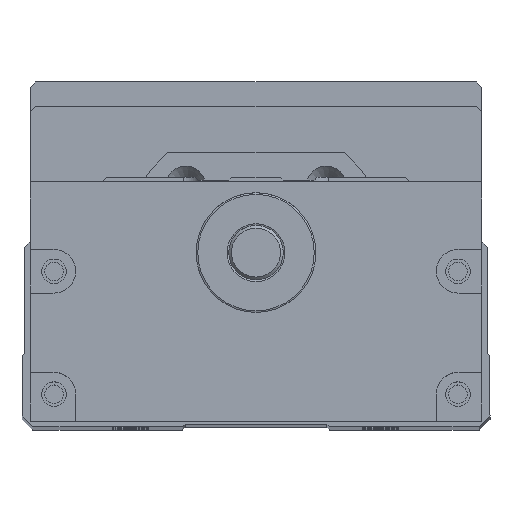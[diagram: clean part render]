
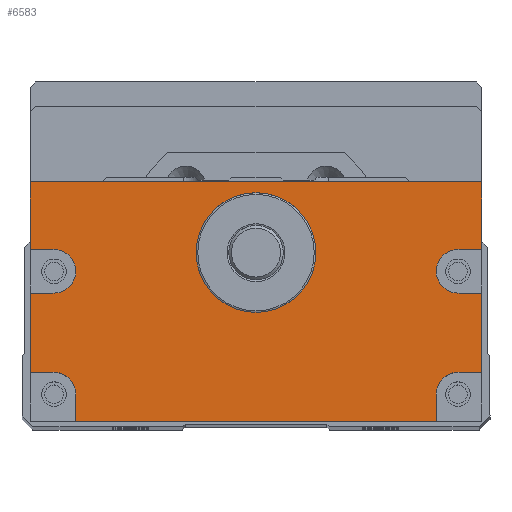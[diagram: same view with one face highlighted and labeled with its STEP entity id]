
A CAD part, top view. The second image highlights one B-rep face of the part: STEP entity #6583.
In plain terms, the highlighted planar face has unit normal (0, 0, 1).
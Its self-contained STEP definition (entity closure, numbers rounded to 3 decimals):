
#534=LINE('',#26856,#1193);
#536=LINE('',#26860,#1195);
#537=LINE('',#26863,#1196);
#538=LINE('',#26865,#1197);
#539=LINE('',#26869,#1198);
#540=LINE('',#26871,#1199);
#541=LINE('',#26872,#1200);
#542=LINE('',#26874,#1201);
#543=LINE('',#26878,#1202);
#544=LINE('',#26880,#1203);
#545=LINE('',#26882,#1204);
#546=LINE('',#26886,#1205);
#547=LINE('',#26888,#1206);
#548=LINE('',#26890,#1207);
#1193=VECTOR('',#15520,1.);
#1195=VECTOR('',#15524,1.);
#1196=VECTOR('',#15525,1.);
#1197=VECTOR('',#15526,1.);
#1198=VECTOR('',#15529,1.);
#1199=VECTOR('',#15530,1.);
#1200=VECTOR('',#15531,1.);
#1201=VECTOR('',#15532,1.);
#1202=VECTOR('',#15535,1.);
#1203=VECTOR('',#15536,1.);
#1204=VECTOR('',#15537,1.);
#1205=VECTOR('',#15540,1.);
#1206=VECTOR('',#15541,1.);
#1207=VECTOR('',#15542,1.);
#6583=ADVANCED_FACE('',(#7412,#7413),#7023,.T.);
#7023=PLANE('',#14071);
#7412=FACE_BOUND('',#7956,.T.);
#7413=FACE_BOUND('',#7957,.T.);
#7956=EDGE_LOOP('',(#9377,#9378,#9379,#9380,#9381,#9382,#9383,#9384,#9385,
#9386,#9387,#9388,#9389,#9390,#9391,#9392,#9393,#9394));
#7957=EDGE_LOOP('',(#9395));
#9377=ORIENTED_EDGE('',*,*,#12496,.F.);
#9378=ORIENTED_EDGE('',*,*,#12497,.T.);
#9379=ORIENTED_EDGE('',*,*,#12498,.F.);
#9380=ORIENTED_EDGE('',*,*,#12499,.F.);
#9381=ORIENTED_EDGE('',*,*,#12500,.F.);
#9382=ORIENTED_EDGE('',*,*,#12501,.T.);
#9383=ORIENTED_EDGE('',*,*,#12494,.T.);
#9384=ORIENTED_EDGE('',*,*,#12502,.T.);
#9385=ORIENTED_EDGE('',*,*,#12503,.F.);
#9386=ORIENTED_EDGE('',*,*,#12504,.F.);
#9387=ORIENTED_EDGE('',*,*,#12505,.F.);
#9388=ORIENTED_EDGE('',*,*,#12506,.T.);
#9389=ORIENTED_EDGE('',*,*,#12507,.F.);
#9390=ORIENTED_EDGE('',*,*,#12508,.F.);
#9391=ORIENTED_EDGE('',*,*,#12509,.F.);
#9392=ORIENTED_EDGE('',*,*,#12510,.T.);
#9393=ORIENTED_EDGE('',*,*,#12511,.F.);
#9394=ORIENTED_EDGE('',*,*,#12512,.F.);
#9395=ORIENTED_EDGE('',*,*,#12480,.T.);
#11409=VERTEX_POINT('',#26827);
#11422=VERTEX_POINT('',#26855);
#11423=VERTEX_POINT('',#26857);
#11424=VERTEX_POINT('',#26861);
#11425=VERTEX_POINT('',#26862);
#11426=VERTEX_POINT('',#26864);
#11427=VERTEX_POINT('',#26866);
#11428=VERTEX_POINT('',#26868);
#11429=VERTEX_POINT('',#26870);
#11430=VERTEX_POINT('',#26873);
#11431=VERTEX_POINT('',#26875);
#11432=VERTEX_POINT('',#26877);
#11433=VERTEX_POINT('',#26879);
#11434=VERTEX_POINT('',#26881);
#11435=VERTEX_POINT('',#26883);
#11436=VERTEX_POINT('',#26885);
#11437=VERTEX_POINT('',#26887);
#11438=VERTEX_POINT('',#26889);
#11439=VERTEX_POINT('',#26891);
#12480=EDGE_CURVE('',#11409,#11409,#13485,.T.);
#12494=EDGE_CURVE('',#11423,#11422,#534,.T.);
#12496=EDGE_CURVE('',#11424,#11425,#536,.T.);
#12497=EDGE_CURVE('',#11424,#11426,#537,.T.);
#12498=EDGE_CURVE('',#11427,#11426,#538,.T.);
#12499=EDGE_CURVE('',#11428,#11427,#13494,.T.);
#12500=EDGE_CURVE('',#11429,#11428,#539,.T.);
#12501=EDGE_CURVE('',#11429,#11423,#540,.T.);
#12502=EDGE_CURVE('',#11422,#11430,#541,.T.);
#12503=EDGE_CURVE('',#11431,#11430,#542,.T.);
#12504=EDGE_CURVE('',#11432,#11431,#13495,.T.);
#12505=EDGE_CURVE('',#11433,#11432,#543,.T.);
#12506=EDGE_CURVE('',#11433,#11434,#544,.T.);
#12507=EDGE_CURVE('',#11435,#11434,#545,.T.);
#12508=EDGE_CURVE('',#11436,#11435,#13496,.T.);
#12509=EDGE_CURVE('',#11437,#11436,#546,.T.);
#12510=EDGE_CURVE('',#11437,#11438,#547,.T.);
#12511=EDGE_CURVE('',#11439,#11438,#548,.T.);
#12512=EDGE_CURVE('',#11425,#11439,#13497,.T.);
#13485=CIRCLE('',#14055,11.);
#13494=CIRCLE('',#14067,4.);
#13495=CIRCLE('',#14068,4.);
#13496=CIRCLE('',#14069,4.);
#13497=CIRCLE('',#14070,4.);
#14055=AXIS2_PLACEMENT_3D('',#26826,#15493,#15494);
#14067=AXIS2_PLACEMENT_3D('',#26867,#15527,#15528);
#14068=AXIS2_PLACEMENT_3D('',#26876,#15533,#15534);
#14069=AXIS2_PLACEMENT_3D('',#26884,#15538,#15539);
#14070=AXIS2_PLACEMENT_3D('',#26892,#15543,#15544);
#14071=AXIS2_PLACEMENT_3D('',#26893,#15545,#15546);
#15493=DIRECTION('',(0.,0.,-1.));
#15494=DIRECTION('',(1.,0.,0.));
#15520=DIRECTION('',(-1.,0.,0.));
#15524=DIRECTION('',(-1.,0.,0.));
#15525=DIRECTION('',(0.,1.,0.));
#15526=DIRECTION('',(1.,0.,0.));
#15527=DIRECTION('',(0.,0.,1.));
#15528=DIRECTION('',(1.,0.,0.));
#15529=DIRECTION('',(-1.,0.,0.));
#15530=DIRECTION('',(0.,1.,0.));
#15531=DIRECTION('',(0.,-1.,0.));
#15532=DIRECTION('',(-1.,0.,0.));
#15533=DIRECTION('',(0.,0.,1.));
#15534=DIRECTION('',(1.,0.,0.));
#15535=DIRECTION('',(1.,0.,0.));
#15536=DIRECTION('',(0.,-1.,0.));
#15537=DIRECTION('',(-1.,0.,0.));
#15538=DIRECTION('',(0.,0.,1.));
#15539=DIRECTION('',(1.,0.,0.));
#15540=DIRECTION('',(0.,1.,0.));
#15541=DIRECTION('',(1.,0.,0.));
#15542=DIRECTION('',(0.,-1.,0.));
#15543=DIRECTION('',(0.,0.,1.));
#15544=DIRECTION('',(1.,0.,0.));
#15545=DIRECTION('',(0.,0.,1.));
#15546=DIRECTION('',(1.,0.,0.));
#26826=CARTESIAN_POINT('',(750.,0.,182.5));
#26827=CARTESIAN_POINT('',(761.,0.,182.5));
#26855=CARTESIAN_POINT('',(708.5,13.,182.5));
#26856=CARTESIAN_POINT('',(791.5,13.,182.5));
#26857=CARTESIAN_POINT('',(791.5,13.,182.5));
#26860=CARTESIAN_POINT('',(791.5,-22.,182.5));
#26861=CARTESIAN_POINT('',(791.5,-22.,182.5));
#26862=CARTESIAN_POINT('',(787.115,-22.,182.5));
#26863=CARTESIAN_POINT('',(791.5,-31.,182.5));
#26864=CARTESIAN_POINT('',(791.5,-7.431,182.5));
#26865=CARTESIAN_POINT('',(791.5,-7.431,182.5));
#26866=CARTESIAN_POINT('',(787.115,-7.431,182.5));
#26867=CARTESIAN_POINT('',(787.115,-3.431,182.5));
#26868=CARTESIAN_POINT('',(787.115,0.569,182.5));
#26869=CARTESIAN_POINT('',(791.5,0.569,182.5));
#26870=CARTESIAN_POINT('',(791.5,0.569,182.5));
#26871=CARTESIAN_POINT('',(791.5,-31.,182.5));
#26872=CARTESIAN_POINT('',(708.5,27.5,182.5));
#26873=CARTESIAN_POINT('',(708.5,0.569,182.5));
#26874=CARTESIAN_POINT('',(791.5,0.569,182.5));
#26875=CARTESIAN_POINT('',(712.885,0.569,182.5));
#26876=CARTESIAN_POINT('',(712.885,-3.431,182.5));
#26877=CARTESIAN_POINT('',(712.885,-7.431,182.5));
#26878=CARTESIAN_POINT('',(791.5,-7.431,182.5));
#26879=CARTESIAN_POINT('',(708.5,-7.431,182.5));
#26880=CARTESIAN_POINT('',(708.5,27.5,182.5));
#26881=CARTESIAN_POINT('',(708.5,-22.,182.5));
#26882=CARTESIAN_POINT('',(791.5,-22.,182.5));
#26883=CARTESIAN_POINT('',(712.885,-22.,182.5));
#26884=CARTESIAN_POINT('',(712.885,-26.,182.5));
#26885=CARTESIAN_POINT('',(716.885,-26.,182.5));
#26886=CARTESIAN_POINT('',(716.885,-31.,182.5));
#26887=CARTESIAN_POINT('',(716.885,-31.,182.5));
#26888=CARTESIAN_POINT('',(708.5,-31.,182.5));
#26889=CARTESIAN_POINT('',(783.115,-31.,182.5));
#26890=CARTESIAN_POINT('',(783.115,-31.,182.5));
#26891=CARTESIAN_POINT('',(783.115,-26.,182.5));
#26892=CARTESIAN_POINT('',(787.115,-26.,182.5));
#26893=CARTESIAN_POINT('',(791.5,-31.,182.5));
